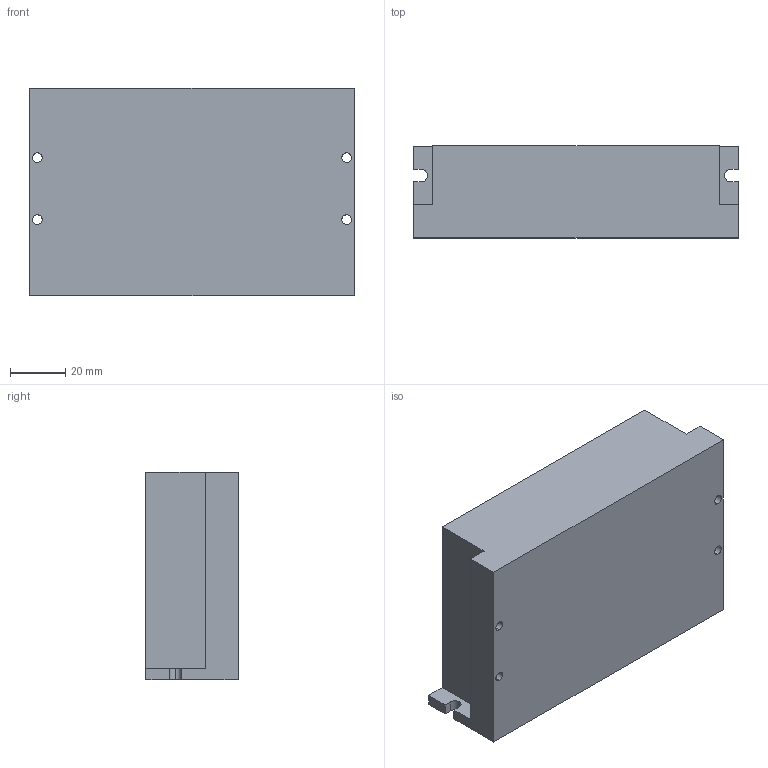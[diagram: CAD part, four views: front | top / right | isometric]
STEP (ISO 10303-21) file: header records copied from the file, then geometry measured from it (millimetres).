
FILE_DESCRIPTION (( 'STEP AP214' ), '1' );
FILE_NAME ('R57.STEP', '2019-07-17T06:10:53', ( 'wimxt.com' ), ( 'wimxt.com' ), 'SwSTEP 2.0', 'SolidWorks 2014', '' );
FILE_SCHEMA (( 'AUTOMOTIVE_DESIGN' ));
Length unit declared in the file: millimetre
Products named in the file (1): R57
Bounding box: 118 x 33.5 x 75.5 mm (x, y, z)
Volume: 276305.6 mm3; surface area: 31216.6 mm2
Topology: 1 solids, 1 shells, 29 faces, 81 edges, 54 vertices
Faces by surface type: plane 18, cylinder 11
Entity records: 987 total; most frequent: CARTESIAN_POINT 165, DIRECTION 163, ORIENTED_EDGE 162, EDGE_CURVE 81, LINE 59, VECTOR 59, VERTEX_POINT 54, AXIS2_PLACEMENT_3D 52
